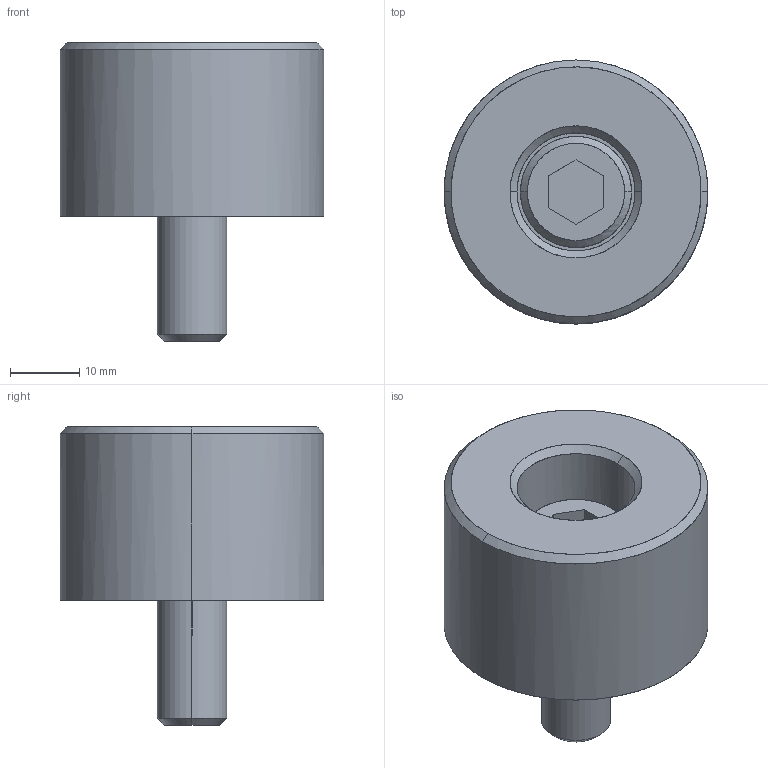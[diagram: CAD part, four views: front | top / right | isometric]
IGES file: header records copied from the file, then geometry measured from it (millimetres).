
Global section: file name: E:\UnigraphicsGraphicData\MISUMI_PRESS-PARTS\IGES\3d_sbv38-25-y-25_00593_r00.igs; native system: NX V5.0; preprocessor: UGS NX IGES V5.0; author: MISUMI; date: 20110105.162508; units: millimetre
Bounding box: 38 x 38 x 43 mm (x, y, z)
Surface area: 7943.7 mm2 (no closed solid volume)
Topology: 0 solids, 0 shells, 31 faces, 204 edges, 204 vertices
Faces by surface type: bspline 31
